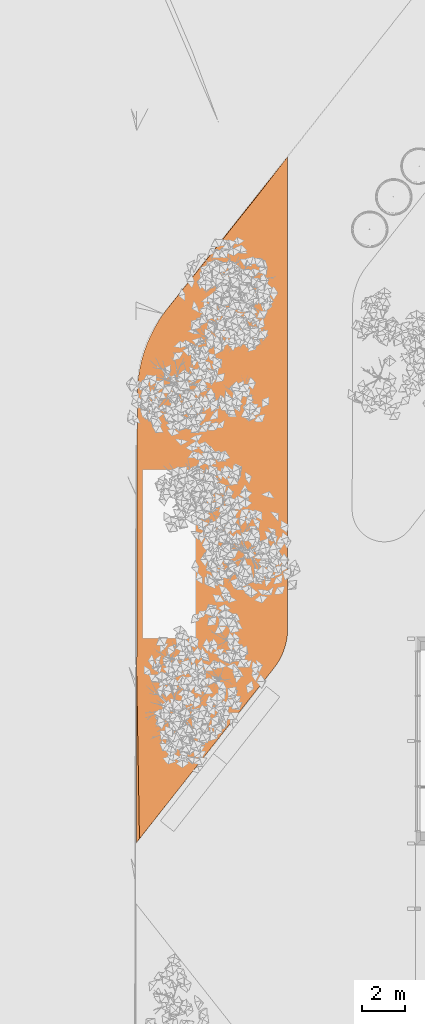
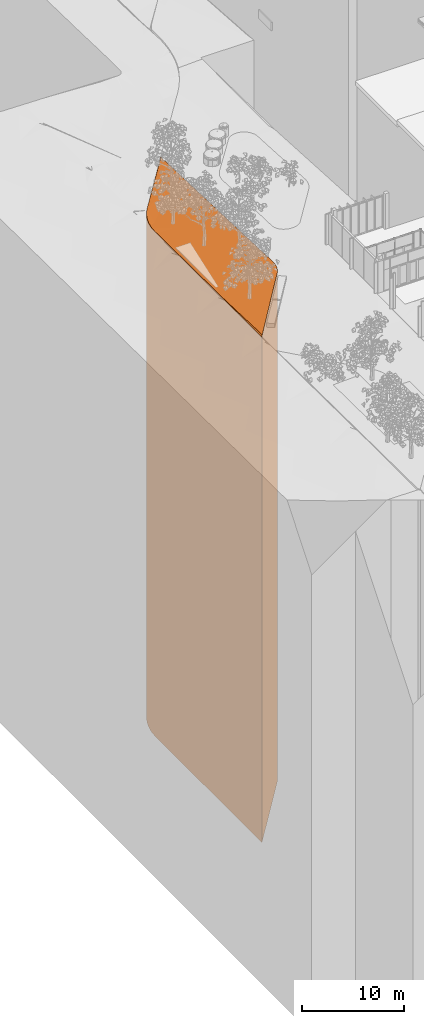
# One storey, part 55 of 69: 1 proxy.
"""IFC2X3 building model written with IfcOpenShell, lengths in millimetres."""

from ifc_helpers import new_model, entity, si_unit, converted_unit, derived_unit, money_unit, direction, frame, origin_with_axes, place, context, subcontext, project, spatial, faceted_brep, material, type_object, element, save


model = new_model("IFC2X3")

# Units and contexts
model_context = context("Model", 3, precision=0.01, world=origin_with_axes(), true_north=direction((0.0, 1.0)))
body_context = subcontext(model_context, "Body", "Model", "MODEL_VIEW")
ifc_project = project(units=[si_unit("LENGTHUNIT", "METRE", prefix="MILLI"), si_unit("AREAUNIT", "SQUARE_METRE"), si_unit("VOLUMEUNIT", "CUBIC_METRE"), converted_unit("PLANEANGLEUNIT", "DEGREE", entity("IfcPlaneAngleMeasure", 0.0174532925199), si_unit("PLANEANGLEUNIT", "RADIAN"), dimensions=[0, 0, 0, 0, 0, 0, 0]), si_unit("SOLIDANGLEUNIT", "STERADIAN"), money_unit("EUR"), converted_unit("TIMEUNIT", "Year", entity("IfcTimeMeasure", 31556926.0), si_unit("TIMEUNIT", "SECOND"), dimensions=[0, 0, 1, 0, 0, 0, 0]), si_unit("MASSUNIT", "GRAM", prefix="KILO"), si_unit("THERMODYNAMICTEMPERATUREUNIT", "DEGREE_CELSIUS"), si_unit("LUMINOUSINTENSITYUNIT", "LUMEN"), si_unit("ENERGYUNIT", "JOULE", prefix="MEGA"), derived_unit("THERMALCONDUCTANCEUNIT", [(si_unit("POWERUNIT", "WATT"), 1), (si_unit("LENGTHUNIT", "METRE"), -1), (si_unit("THERMODYNAMICTEMPERATUREUNIT", "KELVIN"), -1)]), derived_unit("SPECIFICHEATCAPACITYUNIT", [(si_unit("ENERGYUNIT", "JOULE"), 1), (si_unit("MASSUNIT", "GRAM", prefix="KILO"), -1), (si_unit("THERMODYNAMICTEMPERATUREUNIT", "KELVIN"), -1)]), derived_unit("MASSDENSITYUNIT", [(si_unit("MASSUNIT", "GRAM", prefix="KILO"), 1), (si_unit("VOLUMEUNIT", "CUBIC_METRE"), -1)])], contexts=[model_context])

# Site, building, storey
site_placement = place(None, origin_with_axes())
site = spatial("IfcSite", under=ifc_project, at=site_placement, Name="Puškini 31, Narva", CompositionType="ELEMENT")
building_placement = place(site_placement, origin_with_axes())
building = spatial("IfcBuilding", under=site, at=building_placement, Name="Narva Riigigümnaasium", CompositionType="ELEMENT")
storey_placement = place(building_placement, origin_with_axes())
storey = spatial("IfcBuildingStorey", under=building, at=storey_placement, Name="1.korrus 0.00", CompositionType="ELEMENT", Elevation=0.0)

# Proxy
ifc_material = material(Name="Roheala")
building_element_proxy_type = type_object("IfcBuildingElementProxyType", Name="Roheala", PredefinedType="NOTDEFINED")
proxy_placement = place(storey_placement, frame((2856.93387765, 150000.526995, -61100.0), z_axis=(0.0, 0.0, 1.0), x_axis=(1.0, 0.0, 0.0)))
element("IfcBuildingElementProxy", 1, at=proxy_placement, inside=storey, type_object=building_element_proxy_type, material=ifc_material, Name="Roheala", context=body_context, shape_type="Brep", body=[
    faceted_brep([(58.9573400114, 21361.4578852, 60242.6432803), (1859.48535721, 20484.5967522, 60300.0), (82.5524368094, 21616.7809126, 60239.7264848), (45.3419151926, 21105.4086768, 60245.5332081), (832.850177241, 22474.253372, 60200.0), (58.9573400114, 21361.4578852, 0.0), (82.5524368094, 21616.7809126, 0.0), (41.7268963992, 20849.0232081, 60248.3918672), (45.3419151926, 21105.4086768, 0.0), (339.226461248, 22154.2840978, 60200.0), (6015.46396572, 24560.2640754, 60300.0), (5820.02450734, 27365.0541588, 60200.0), (116.091274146, 21870.9889441, 60236.7872632), (116.091274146, 21870.9889441, 0.0), (7046.97394512, 32010.954908, 0.0), (7063.36156322, 10608.2819125, 0.0), (7063.8244824, 10003.6969311, 0.0), (7061.05360988, 9854.44890707, 0.0), (7046.92254661, 9680.4395772, 0.0), (7022.69764816, 9507.54629184, 0.0), (6988.4608839, 9336.35406713, 0.0), (6944.32810021, 9167.44216337, 0.0), (6890.44862846, 9001.38212498, 0.0), (6827.00477973, 8838.73584655, 0.0), (6754.21122792, 8680.05367161, 0.0), (6672.31428336, 8525.87253042, 0.0), (6581.59105939, 8376.71412314, 0.0), (6482.34853469, 8233.08315462, 0.0), (6428.63552462, 8164.2743906, 0.0), (5871.29360101, 7456.45818664, 0.0), (0.0, 0.0, 0.0), (36.049205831, 16441.8310274, 0.0), (45.3919401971, 20702.9972928, 0.0), (41.7268963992, 20849.0232081, 0.0), (159.522777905, 22123.6948629, 0.0), (212.780809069, 22374.5138395, 0.0), (275.784264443, 22623.063918, 0.0), (348.437200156, 22868.9665977, 0.0), (430.628977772, 23111.8474092, 0.0), (522.234432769, 23351.3364852, 0.0), (623.114065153, 23587.0691233, 0.0), (733.114251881, 23818.6863417, 0.0), (852.067480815, 24045.8354254, 0.0), (979.792605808, 24268.1704639, 0.0), (1116.09512256, 24485.3528777, 0.0), (1260.76746483, 24697.0519336, 0.0), (1337.17839267, 24799.9985914, 0.0), (45.3919401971, 20702.9972928, 60250.0), (212.780809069, 22374.5138395, 60230.8594731), (7052.61063813, 24649.2812077, 60300.0), (1337.17839267, 24799.9985914, 60200.0), (6210.90342397, 21755.473991, 60400.0), (2886.12053719, 18494.9401325, 60400.0), (159.522777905, 22123.6948629, 60233.8300916), (7046.97394512, 32010.954908, 60000.0), (7048.28824279, 30294.446558, 60100.0), (7050.44944046, 27471.8638824, 60200.0), (7054.77183579, 21826.6985321, 60400.0), (7056.93303346, 19004.1158565, 60500.0), (7059.09423113, 16181.5331809, 60600.0), (7063.36156322, 10608.2819125, 60800.0), (7063.8244824, 10003.6969311, 60800.0), (7061.05360988, 9854.44890707, 60800.0), (7046.92254661, 9680.4395772, 60800.0), (7022.69764816, 9507.54629184, 60800.0), (6988.4608839, 9336.35406713, 60800.0), (6944.32810021, 9167.44216337, 60800.0), (6890.44862846, 9001.38212498, 60800.0), (6827.00477973, 8838.73584655, 60800.0), (6754.21122792, 8680.05367161, 60800.0), (6672.31428336, 8525.87253042, 60800.0), (6581.59105939, 8376.71412314, 60800.0), (6482.34853469, 8233.08315462, 60800.0), (6428.63552462, 8164.2743906, 60800.0), (5871.29360101, 7456.45818664, 60800.0), (3973.47488699, 5046.25579368, 60700.0), (2066.20065557, 2624.04503001, 60600.0), (0.0, 0.0, 60400.0), (17.3111872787, 7895.53083226, 60400.0), (36.049205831, 16441.8310274, 60300.0), (275.784264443, 22623.063918, 60227.8799317), (348.437200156, 22868.9665977, 60224.8960047), (430.628977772, 23111.8474092, 60221.9122359), (522.234432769, 23351.3364852, 60218.9331694), (623.114065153, 23587.0691233, 60215.9633416), (733.114251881, 23818.6863417, 60213.0072752), (852.067480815, 24045.8354254, 60210.0694717), (979.792605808, 24268.1704639, 60207.1544049), (1116.09512256, 24485.3528777, 60204.2665141), (1260.76746483, 24697.0519336, 60201.4101969), (662.821803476, 19708.9136637, 60300.0), (5624.58504909, 30169.8442432, 60100.0), (1928.78969425, 17874.3936619, 60400.0), (3912.75571717, 16505.2835137, 60500.0), (6406.34288222, 18950.6839067, 60500.0), (6990.12747909, 13358.8960449, 60700.0), (6292.18135596, 9904.08289452, 60800.0), (5153.57344724, 11853.5539432, 60700.0), (146.100537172, 190.131201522, 60500.0), (1737.7497211, 17701.9670902, 60400.0), (599.141812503, 19651.4381398, 60300.0), (3194.7575849, 16039.87366, 60500.0), (4939.39089714, 14515.626894, 60600.0), (6601.78234046, 16145.8938223, 60600.0), (5966.02607712, 12525.9702743, 60700.0), (4014.96553865, 13803.0249928, 60600.0), (2876.35762981, 15752.4960415, 60500.0), (4460.72547567, 14205.3536582, 60600.0), (6797.22179884, 13341.1037389, 60700.0), (5726.69336632, 12370.8336564, 60700.0)], [[[0, 1, 2]], [[3, 1, 0]], [[4, 2, 1]], [[5, 0, 2, 6]], [[7, 1, 3]], [[8, 3, 0, 5]], [[4, 9, 2]], [[10, 11, 4, 1]], [[6, 2, 12, 13]], [[14, 15, 16, 17, 18, 19, 20, 21, 22, 23, 24, 25, 26, 27, 28, 29, 30, 31, 32, 33, 8, 5, 6, 13, 34, 35, 36, 37, 38, 39, 40, 41, 42, 43, 44, 45, 46]], [[47, 1, 7]], [[33, 7, 3, 8]], [[4, 48, 9]], [[12, 2, 9]], [[49, 11, 10]], [[50, 4, 11]], [[51, 10, 1, 52]], [[13, 12, 53, 34]], [[14, 54, 55, 56, 49, 57, 58, 59, 60, 15]], [[15, 60, 61, 16]], [[16, 61, 62, 17]], [[17, 62, 63, 18]], [[18, 63, 64, 19]], [[19, 64, 65, 20]], [[20, 65, 66, 21]], [[21, 66, 67, 22]], [[22, 67, 68, 23]], [[23, 68, 69, 24]], [[24, 69, 70, 25]], [[25, 70, 71, 26]], [[26, 71, 72, 27]], [[27, 72, 73, 28]], [[28, 73, 74, 29]], [[29, 74, 75, 76, 77, 30]], [[30, 77, 78, 79, 31]], [[31, 79, 47, 32]], [[32, 47, 7, 33]], [[34, 53, 48, 35]], [[35, 48, 80, 36]], [[36, 80, 81, 37]], [[37, 81, 82, 38]], [[38, 82, 83, 39]], [[39, 83, 84, 40]], [[40, 84, 85, 41]], [[41, 85, 86, 42]], [[42, 86, 87, 43]], [[43, 87, 88, 44]], [[44, 88, 89, 45]], [[45, 89, 50, 46]], [[46, 50, 54, 14]], [[47, 90, 1]], [[48, 4, 80]], [[53, 9, 48]], [[53, 12, 9]], [[56, 11, 49]], [[49, 10, 57]], [[89, 4, 50]], [[50, 11, 91]], [[10, 51, 57]], [[52, 1, 90, 92]], [[51, 52, 93, 94]], [[54, 91, 55]], [[55, 91, 56]], [[57, 51, 58]], [[58, 94, 59]], [[95, 60, 59]], [[73, 72, 71, 70, 69, 68, 67, 66, 65, 64, 63, 62, 61, 60, 96, 74]], [[74, 97, 75]], [[75, 97, 76]], [[98, 77, 76]], [[77, 98, 78]], [[79, 78, 99, 100]], [[47, 79, 100]], [[80, 4, 81]], [[81, 4, 82]], [[82, 4, 83]], [[83, 4, 84]], [[84, 4, 85]], [[85, 4, 86]], [[86, 4, 87]], [[87, 4, 88]], [[88, 4, 89]], [[91, 54, 50]], [[47, 100, 90]], [[56, 91, 11]], [[100, 99, 92, 90]], [[92, 101, 93, 52]], [[93, 102, 103, 94]], [[51, 94, 58]], [[59, 94, 103]], [[60, 95, 104]], [[59, 103, 95]], [[97, 96, 60]], [[96, 97, 74]], [[97, 105, 76]], [[98, 76, 105]], [[78, 98, 106, 99]], [[101, 92, 99, 106]], [[102, 93, 101, 107]], [[102, 104, 108, 103]], [[108, 104, 95]], [[104, 109, 60]], [[95, 103, 108]], [[109, 97, 60]], [[105, 97, 109, 107]], [[106, 98, 105]], [[106, 105, 107, 101]], [[104, 102, 107, 109]]]),
])

save(model, "model.ifc")
